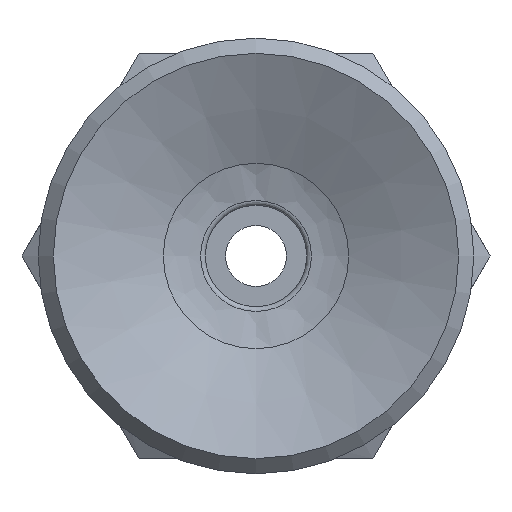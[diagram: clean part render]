
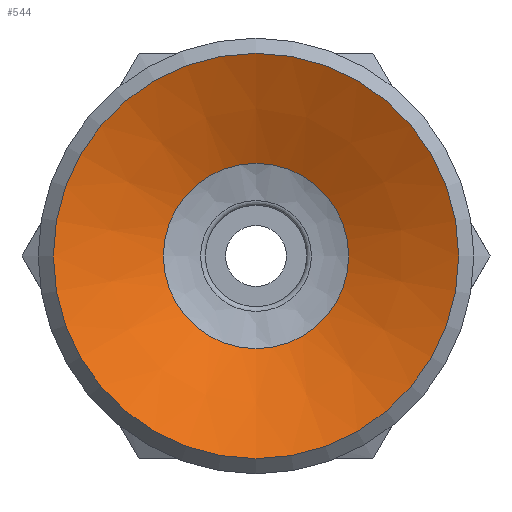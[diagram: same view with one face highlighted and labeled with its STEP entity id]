
A CAD part, front view. The second image highlights one B-rep face of the part: STEP entity #544.
In plain terms, the highlighted conical face has half-angle 65 degrees and reference radius 1.427 mm.
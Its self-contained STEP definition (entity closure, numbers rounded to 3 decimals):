
#544=ADVANCED_FACE('',(#787,#788),#789,.F.);
#787=FACE_BOUND('',#1069,.T.);
#788=FACE_OUTER_BOUND('',#1070,.T.);
#789=CONICAL_SURFACE('',#1071,1.427,1.134);
#1069=EDGE_LOOP('',(#1739));
#1070=EDGE_LOOP('',(#1740));
#1071=AXIS2_PLACEMENT_3D('',#1741,#1742,#1743);
#1739=ORIENTED_EDGE('',*,*,#2029,.T.);
#1740=ORIENTED_EDGE('',*,*,#2016,.T.);
#1741=CARTESIAN_POINT('',(0.0,7.096,0.));
#1742=DIRECTION('',(-0.0,-1.0,0.));
#1743=DIRECTION('',(0.0,0.,-1.0));
#2016=EDGE_CURVE('',#2297,#2297,#2298,.T.);
#2029=EDGE_CURVE('',#2323,#2323,#2324,.T.);
#2297=VERTEX_POINT('',#2917);
#2298=CIRCLE('',#2918,4.0);
#2323=VERTEX_POINT('',#2943);
#2324=CIRCLE('',#2944,1.828);
#2917=CARTESIAN_POINT('',(0.0,5.896,-4.0));
#2918=AXIS2_PLACEMENT_3D('',#3227,#3228,#3229);
#2943=CARTESIAN_POINT('',(0.0,6.909,-1.828));
#2944=AXIS2_PLACEMENT_3D('',#3266,#3267,#3268);
#3227=CARTESIAN_POINT('',(0.0,5.896,0.0));
#3228=DIRECTION('',(0.0,-1.0,0.));
#3229=DIRECTION('',(0.0,0.,-1.0));
#3266=CARTESIAN_POINT('',(0.0,6.909,0.0));
#3267=DIRECTION('',(0.0,1.0,0.));
#3268=DIRECTION('',(0.0,0.,-1.0));
